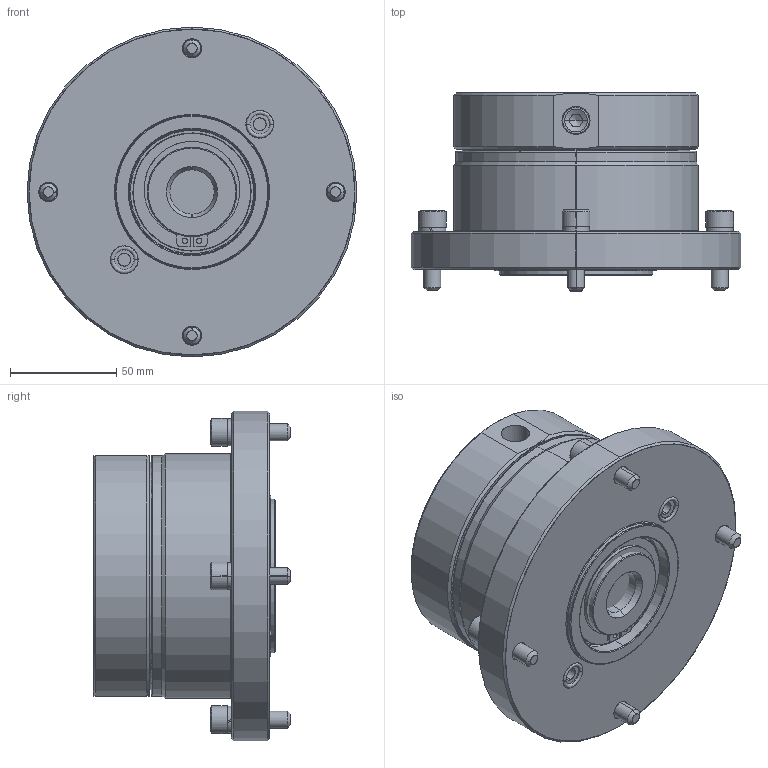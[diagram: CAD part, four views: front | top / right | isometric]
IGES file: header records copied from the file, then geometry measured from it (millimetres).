
Start section: SolidWorks IGES file using analytic representation for surfaces
Global section: file name: L:\電子カタログ-3D_CADデータ集\電子カタログ-3D_IGES\JRB_JRC\JRB0210-S-G-S.IGS; native system: SolidWorks 2010; preprocessor: SolidWorks 2010; author: D213; date: 110314.113705; units: millimetre
Bounding box: 155 x 93 x 155 mm (x, y, z)
Surface area: 120636.4 mm2 (no closed solid volume)
Topology: 0 solids, 0 shells, 328 faces, 5244 edges, 5228 vertices
Faces by surface type: revolution 198, bspline 130
